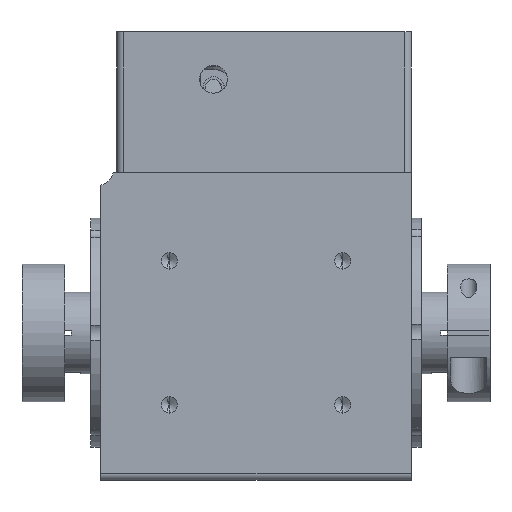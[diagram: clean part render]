
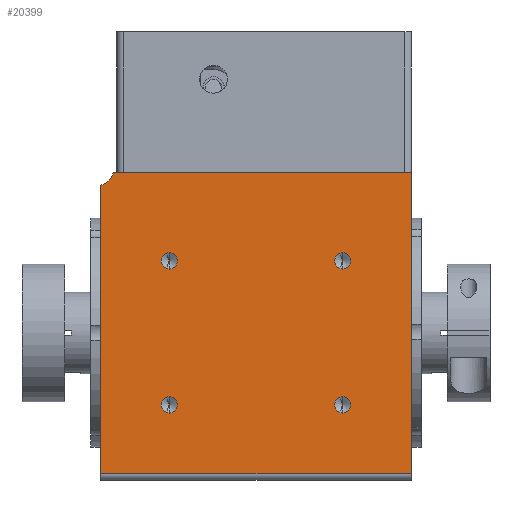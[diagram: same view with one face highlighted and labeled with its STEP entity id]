
A CAD part, front view. The second image highlights one B-rep face of the part: STEP entity #20399.
In plain terms, the highlighted planar face has unit normal (0, -1, 0).
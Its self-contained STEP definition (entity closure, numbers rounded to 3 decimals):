
#858 = EDGE_CURVE ( 'NONE', #17430, #29577, #32131, .T. ) ;
#864 = CARTESIAN_POINT ( 'NONE',  ( -16.743, -60.486, 64.5 ) ) ;
#1235 = DIRECTION ( 'NONE',  ( 0., 0., -1. ) ) ;
#1405 = DIRECTION ( 'NONE',  ( 0., -1., 0. ) ) ;
#1467 = CARTESIAN_POINT ( 'NONE',  ( 36.257, -60.486, 67. ) ) ;
#1491 = CARTESIAN_POINT ( 'NONE',  ( -16.743, -60.486, 69.5 ) ) ;
#1519 = ORIENTED_EDGE ( 'NONE', *, *, #12263, .F. ) ;
#1689 = EDGE_LOOP ( 'NONE', ( #5210, #6937 ) ) ;
#1977 = EDGE_CURVE ( 'NONE', #30630, #4935, #6609, .T. ) ;
#2429 = VECTOR ( 'NONE', #14774, 1000. ) ;
#2432 = AXIS2_PLACEMENT_3D ( 'NONE', #22815, #6812, #25527 ) ;
#2539 = PLANE ( 'NONE',  #28286 ) ;
#4665 = EDGE_CURVE ( 'NONE', #23122, #6508, #24513, .T. ) ;
#4935 = VERTEX_POINT ( 'NONE', #34468 ) ;
#5158 = VECTOR ( 'NONE', #18693, 1000. ) ;
#5210 = ORIENTED_EDGE ( 'NONE', *, *, #17410, .F. ) ;
#5469 = EDGE_LOOP ( 'NONE', ( #27765, #29913 ) ) ;
#5769 = VECTOR ( 'NONE', #16733, 1000. ) ;
#6508 = VERTEX_POINT ( 'NONE', #11876 ) ;
#6609 = LINE ( 'NONE', #32407, #5769 ) ;
#6658 = AXIS2_PLACEMENT_3D ( 'NONE', #13837, #32550, #16524 ) ;
#6669 = CARTESIAN_POINT ( 'NONE',  ( 36.257, -60.486, 20.5 ) ) ;
#6812 = DIRECTION ( 'NONE',  ( 0., -1., 0. ) ) ;
#6937 = ORIENTED_EDGE ( 'NONE', *, *, #16294, .F. ) ;
#7067 = EDGE_CURVE ( 'NONE', #28057, #4935, #25682, .T. ) ;
#7658 = CARTESIAN_POINT ( 'NONE',  ( 36.257, -60.486, 23. ) ) ;
#8132 = ORIENTED_EDGE ( 'NONE', *, *, #11003, .T. ) ;
#8755 = DIRECTION ( 'NONE',  ( 0., -1., 0. ) ) ;
#8799 = CARTESIAN_POINT ( 'NONE',  ( -16.743, -60.486, 23. ) ) ;
#8875 = DIRECTION ( 'NONE',  ( 0., 0., -1. ) ) ;
#9223 = AXIS2_PLACEMENT_3D ( 'NONE', #8799, #8755, #8875 ) ;
#9226 = EDGE_LOOP ( 'NONE', ( #33705, #1519 ) ) ;
#10062 = EDGE_LOOP ( 'NONE', ( #21096, #23633 ) ) ;
#10238 = EDGE_CURVE ( 'NONE', #6508, #23122, #13342, .T. ) ;
#10332 = DIRECTION ( 'NONE',  ( 0., 0., -1. ) ) ;
#10654 = CARTESIAN_POINT ( 'NONE',  ( -16.743, -60.486, 23. ) ) ;
#11003 = EDGE_CURVE ( 'NONE', #12849, #28057, #25560, .T. ) ;
#11159 = ORIENTED_EDGE ( 'NONE', *, *, #7067, .T. ) ;
#11215 = DIRECTION ( 'NONE',  ( 0., -1., 0. ) ) ;
#11282 = VECTOR ( 'NONE', #20970, 1000. ) ;
#11334 = EDGE_CURVE ( 'NONE', #16805, #27520, #19673, .T. ) ;
#11683 = VERTEX_POINT ( 'NONE', #25936 ) ;
#11818 = CARTESIAN_POINT ( 'NONE',  ( -16.743, -60.486, 67. ) ) ;
#11876 = CARTESIAN_POINT ( 'NONE',  ( 36.257, -60.486, 64.5 ) ) ;
#12263 = EDGE_CURVE ( 'NONE', #29577, #17430, #23382, .T. ) ;
#12473 = CARTESIAN_POINT ( 'NONE',  ( 36.257, -60.486, 69.5 ) ) ;
#12505 = CARTESIAN_POINT ( 'NONE',  ( -37.743, -60.486, 90.101 ) ) ;
#12774 = ORIENTED_EDGE ( 'NONE', *, *, #1977, .F. ) ;
#12806 = CIRCLE ( 'NONE', #6658, 5. ) ;
#12849 = VERTEX_POINT ( 'NONE', #12505 ) ;
#13322 = DIRECTION ( 'NONE',  ( 0., 0., -1. ) ) ;
#13342 = CIRCLE ( 'NONE', #32546, 2.5 ) ;
#13632 = EDGE_CURVE ( 'NONE', #12849, #11683, #12806, .T. ) ;
#13734 = CARTESIAN_POINT ( 'NONE',  ( -37.743, -60.486, 94. ) ) ;
#13837 = CARTESIAN_POINT ( 'NONE',  ( -38.743, -60.486, 95. ) ) ;
#13962 = ORIENTED_EDGE ( 'NONE', *, *, #22305, .F. ) ;
#14489 = DIRECTION ( 'NONE',  ( 0., 0., -1. ) ) ;
#14720 = CIRCLE ( 'NONE', #29093, 2.5 ) ;
#14774 = DIRECTION ( 'NONE',  ( 1., 0., 0. ) ) ;
#15347 = VERTEX_POINT ( 'NONE', #29048 ) ;
#16294 = EDGE_CURVE ( 'NONE', #15347, #30375, #22317, .T. ) ;
#16441 = DIRECTION ( 'NONE',  ( 0., 0., 1. ) ) ;
#16524 = DIRECTION ( 'NONE',  ( 0., 0., -1. ) ) ;
#16641 = LINE ( 'NONE', #17501, #2429 ) ;
#16733 = DIRECTION ( 'NONE',  ( 0., 0., -1. ) ) ;
#16805 = VERTEX_POINT ( 'NONE', #1491 ) ;
#17011 = ORIENTED_EDGE ( 'NONE', *, *, #13632, .F. ) ;
#17410 = EDGE_CURVE ( 'NONE', #30375, #15347, #14720, .T. ) ;
#17430 = VERTEX_POINT ( 'NONE', #23673 ) ;
#17501 = CARTESIAN_POINT ( 'NONE',  ( -37.743, -60.486, 94. ) ) ;
#18693 = DIRECTION ( 'NONE',  ( 1., 0., 0. ) ) ;
#18720 = CARTESIAN_POINT ( 'NONE',  ( 57.257, -60.486, 2. ) ) ;
#19155 = AXIS2_PLACEMENT_3D ( 'NONE', #11818, #30528, #14489 ) ;
#19673 = CIRCLE ( 'NONE', #19155, 2.5 ) ;
#19699 = FACE_OUTER_BOUND ( 'NONE', #24306, .T. ) ;
#20399 = ADVANCED_FACE ( 'NONE', ( #20529, #34680, #33888, #26780, #19699 ), #2539, .F. ) ;
#20529 = FACE_BOUND ( 'NONE', #10062, .T. ) ;
#20726 = AXIS2_PLACEMENT_3D ( 'NONE', #10654, #29358, #13322 ) ;
#20970 = DIRECTION ( 'NONE',  ( 0., 0., -1. ) ) ;
#21096 = ORIENTED_EDGE ( 'NONE', *, *, #26814, .F. ) ;
#22305 = EDGE_CURVE ( 'NONE', #11683, #30630, #16641, .T. ) ;
#22317 = CIRCLE ( 'NONE', #2432, 2.5 ) ;
#22815 = CARTESIAN_POINT ( 'NONE',  ( 36.257, -60.486, 23. ) ) ;
#23122 = VERTEX_POINT ( 'NONE', #12473 ) ;
#23382 = CIRCLE ( 'NONE', #20726, 2.5 ) ;
#23633 = ORIENTED_EDGE ( 'NONE', *, *, #11334, .F. ) ;
#23670 = CARTESIAN_POINT ( 'NONE',  ( -37.743, -60.486, 94. ) ) ;
#23673 = CARTESIAN_POINT ( 'NONE',  ( -16.743, -60.486, 20.5 ) ) ;
#23855 = AXIS2_PLACEMENT_3D ( 'NONE', #30705, #30918, #29619 ) ;
#24306 = EDGE_LOOP ( 'NONE', ( #8132, #11159, #12774, #13962, #17011 ) ) ;
#24367 = CARTESIAN_POINT ( 'NONE',  ( -16.743, -60.486, 25.5 ) ) ;
#24513 = CIRCLE ( 'NONE', #23855, 2.5 ) ;
#24808 = CARTESIAN_POINT ( 'NONE',  ( -37.743, -60.486, 2. ) ) ;
#25527 = DIRECTION ( 'NONE',  ( 0., 0., -1. ) ) ;
#25560 = LINE ( 'NONE', #23670, #11282 ) ;
#25682 = LINE ( 'NONE', #18720, #5158 ) ;
#25936 = CARTESIAN_POINT ( 'NONE',  ( -33.844, -60.486, 94. ) ) ;
#26351 = DIRECTION ( 'NONE',  ( 0., -1., 0. ) ) ;
#26780 = FACE_BOUND ( 'NONE', #1689, .T. ) ;
#26814 = EDGE_CURVE ( 'NONE', #27520, #16805, #32604, .T. ) ;
#27227 = CARTESIAN_POINT ( 'NONE',  ( -16.743, -60.486, 67. ) ) ;
#27520 = VERTEX_POINT ( 'NONE', #864 ) ;
#27765 = ORIENTED_EDGE ( 'NONE', *, *, #10238, .F. ) ;
#28057 = VERTEX_POINT ( 'NONE', #24808 ) ;
#28286 = AXIS2_PLACEMENT_3D ( 'NONE', #13734, #32457, #16441 ) ;
#29048 = CARTESIAN_POINT ( 'NONE',  ( 36.257, -60.486, 25.5 ) ) ;
#29093 = AXIS2_PLACEMENT_3D ( 'NONE', #7658, #26351, #10332 ) ;
#29358 = DIRECTION ( 'NONE',  ( 0., -1., 0. ) ) ;
#29577 = VERTEX_POINT ( 'NONE', #24367 ) ;
#29619 = DIRECTION ( 'NONE',  ( 0., 0., -1. ) ) ;
#29913 = ORIENTED_EDGE ( 'NONE', *, *, #4665, .F. ) ;
#29920 = DIRECTION ( 'NONE',  ( 0., 0., -1. ) ) ;
#30375 = VERTEX_POINT ( 'NONE', #6669 ) ;
#30528 = DIRECTION ( 'NONE',  ( 0., -1., 0. ) ) ;
#30630 = VERTEX_POINT ( 'NONE', #32082 ) ;
#30705 = CARTESIAN_POINT ( 'NONE',  ( 36.257, -60.486, 67. ) ) ;
#30918 = DIRECTION ( 'NONE',  ( 0., -1., 0. ) ) ;
#32082 = CARTESIAN_POINT ( 'NONE',  ( 57.257, -60.486, 94. ) ) ;
#32131 = CIRCLE ( 'NONE', #9223, 2.5 ) ;
#32407 = CARTESIAN_POINT ( 'NONE',  ( 57.257, -60.486, 94. ) ) ;
#32457 = DIRECTION ( 'NONE',  ( 0., 1., 0. ) ) ;
#32546 = AXIS2_PLACEMENT_3D ( 'NONE', #1467, #1405, #1235 ) ;
#32550 = DIRECTION ( 'NONE',  ( 0., -1., 0. ) ) ;
#32604 = CIRCLE ( 'NONE', #33994, 2.5 ) ;
#33705 = ORIENTED_EDGE ( 'NONE', *, *, #858, .F. ) ;
#33888 = FACE_BOUND ( 'NONE', #9226, .T. ) ;
#33994 = AXIS2_PLACEMENT_3D ( 'NONE', #27227, #11215, #29920 ) ;
#34468 = CARTESIAN_POINT ( 'NONE',  ( 57.257, -60.486, 2. ) ) ;
#34680 = FACE_BOUND ( 'NONE', #5469, .T. ) ;
